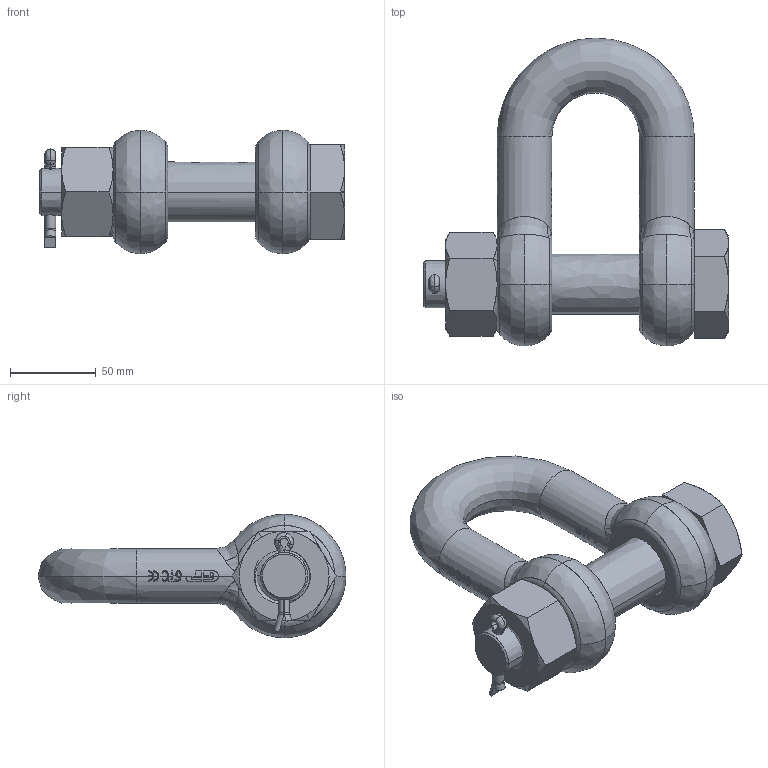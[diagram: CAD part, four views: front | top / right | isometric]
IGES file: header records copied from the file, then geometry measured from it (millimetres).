
Start section: START RECORD GO HERE.
Global section: file name: 12.igs; native system: Solidworks 2009      A Version 5 Release 17 ; preprocessor: Solidworks                 ; author: v.b.; organization: P4; date: 20090807.084121; units: millimetre
Bounding box: 178 x 179.5 x 72 mm (x, y, z)
Surface area: 94586.2 mm2 (no closed solid volume)
Topology: 0 solids, 0 shells, 749 faces, 4508 edges, 4500 vertices
Faces by surface type: plane 316, bspline 266, revolution 167
